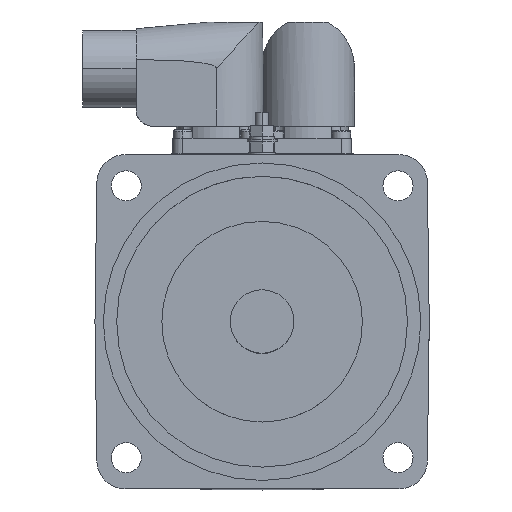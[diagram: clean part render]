
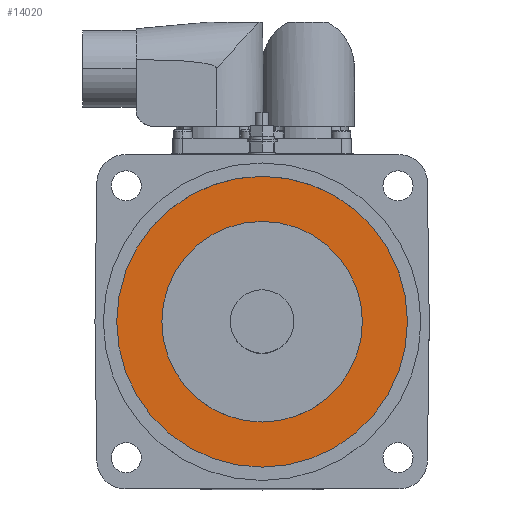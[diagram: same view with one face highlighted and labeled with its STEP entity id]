
A CAD part, top view. The second image highlights one B-rep face of the part: STEP entity #14020.
In plain terms, the highlighted planar face has unit normal (0, 0, 1).
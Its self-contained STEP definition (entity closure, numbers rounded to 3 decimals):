
#2600 = VERTEX_POINT ( 'NONE', #13676 ) ;
#2601 = VERTEX_POINT ( 'NONE', #13677 ) ;
#2604 = VERTEX_POINT ( 'NONE', #13680 ) ;
#2605 = VERTEX_POINT ( 'NONE', #13681 ) ;
#2903 = CIRCLE ( 'NONE', #6027, 30. ) ;
#2910 = CIRCLE ( 'NONE', #6031, 43.5 ) ;
#3169 = FACE_BOUND ( 'NONE', #13192, .T. ) ;
#3172 = FACE_OUTER_BOUND ( 'NONE', #13187, .T. ) ;
#3635 = CIRCLE ( 'NONE', #6433, 43.5 ) ;
#3638 = CIRCLE ( 'NONE', #6434, 30. ) ;
#6027 = AXIS2_PLACEMENT_3D ( 'NONE', #11004, #11005, #11006 ) ;
#6031 = AXIS2_PLACEMENT_3D ( 'NONE', #11013, #11016, #11017 ) ;
#6165 = AXIS2_PLACEMENT_3D ( 'NONE', #9605, #9624, #9626 ) ;
#6433 = AXIS2_PLACEMENT_3D ( 'NONE', #15074, #15083, #15084 ) ;
#6434 = AXIS2_PLACEMENT_3D ( 'NONE', #15077, #15087, #15088 ) ;
#7082 = ORIENTED_EDGE ( 'NONE', *, *, #14301, .T. ) ;
#7083 = ORIENTED_EDGE ( 'NONE', *, *, #12243, .T. ) ;
#7084 = ORIENTED_EDGE ( 'NONE', *, *, #12239, .F. ) ;
#7085 = ORIENTED_EDGE ( 'NONE', *, *, #14303, .F. ) ;
#9605 = CARTESIAN_POINT ( 'NONE',  ( 0., 43.5, 8. ) ) ;
#9622 = PLANE ( 'NONE',  #6165 ) ;
#9624 = DIRECTION ( 'NONE',  ( 0., 0., 1. ) ) ;
#9626 = DIRECTION ( 'NONE',  ( 1., 0., 0. ) ) ;
#11004 = CARTESIAN_POINT ( 'NONE',  ( 0., 0., 8. ) ) ;
#11005 = DIRECTION ( 'NONE',  ( 0., 0., 1. ) ) ;
#11006 = DIRECTION ( 'NONE',  ( 1., 0., 0. ) ) ;
#11013 = CARTESIAN_POINT ( 'NONE',  ( 0., 0., 8. ) ) ;
#11016 = DIRECTION ( 'NONE',  ( 0., 0., 1. ) ) ;
#11017 = DIRECTION ( 'NONE',  ( 1., 0., 0. ) ) ;
#12239 = EDGE_CURVE ( 'NONE', #2600, #2601, #2903, .T. ) ;
#12243 = EDGE_CURVE ( 'NONE', #2604, #2605, #2910, .T. ) ;
#13187 = EDGE_LOOP ( 'NONE', ( #7082, #7083 ) ) ;
#13192 = EDGE_LOOP ( 'NONE', ( #7084, #7085 ) ) ;
#13676 = CARTESIAN_POINT ( 'NONE',  ( 30., 0., 8. ) ) ;
#13677 = CARTESIAN_POINT ( 'NONE',  ( -30., 0., 8. ) ) ;
#13680 = CARTESIAN_POINT ( 'NONE',  ( -43.5, 0., 8. ) ) ;
#13681 = CARTESIAN_POINT ( 'NONE',  ( 43.5, 0., 8. ) ) ;
#14020 = ADVANCED_FACE ( 'NONE', ( #3172, #3169 ), #9622, .T. ) ;
#14301 = EDGE_CURVE ( 'NONE', #2605, #2604, #3635, .T. ) ;
#14303 = EDGE_CURVE ( 'NONE', #2601, #2600, #3638, .T. ) ;
#15074 = CARTESIAN_POINT ( 'NONE',  ( 0., 0., 8. ) ) ;
#15077 = CARTESIAN_POINT ( 'NONE',  ( 0., 0., 8. ) ) ;
#15083 = DIRECTION ( 'NONE',  ( 0., 0., 1. ) ) ;
#15084 = DIRECTION ( 'NONE',  ( 1., 0., 0. ) ) ;
#15087 = DIRECTION ( 'NONE',  ( 0., 0., 1. ) ) ;
#15088 = DIRECTION ( 'NONE',  ( 1., 0., 0. ) ) ;
